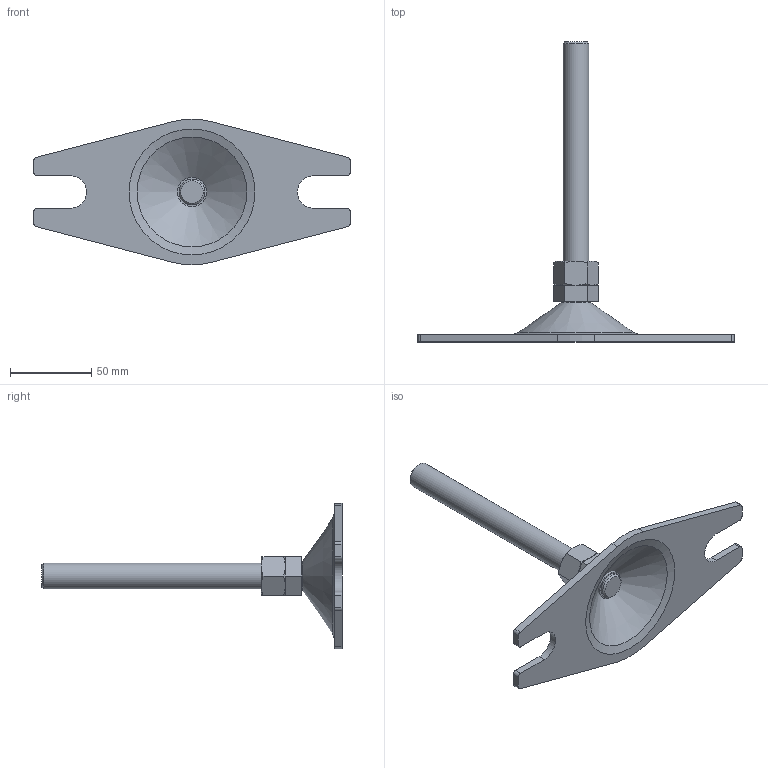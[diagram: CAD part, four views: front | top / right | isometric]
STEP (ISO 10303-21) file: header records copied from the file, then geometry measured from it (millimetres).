
FILE_DESCRIPTION(/* description */ (''),/* implementation_level */ '2;1');
FILE_NAME(/* name */ 'D:\硯聰\Inv材料庫-自訂\\X2\72796B8A914D4EF6\X0\\大樺腳座.stp',/* time_stamp */ '2020-11-19T10:09:00+08:00',/* author */ ('Owner'),/* organization */ (''),/* preprocessor_version */ 'ST-DEVELOPER v16.1',/* originating_system */ 'Autodesk Inventor 2016',/* authorisation */ '');
FILE_SCHEMA (('AUTOMOTIVE_DESIGN { 1 0 10303 214 3 1 1 }'));
Length unit declared in the file: millimetre
Products named in the file (4): 大樺腳座底盤; Apple腳座牙柱; M16-5; 大樺腳座
Assembly tree (3 placements, depth 2):
  大樺腳座
    大樺腳座底盤
    Apple腳座牙柱
    M16-5
Bounding box: 195 x 185 x 89.67 mm (x, y, z)
Volume: 98810.6 mm3; surface area: 40435.2 mm2
Topology: 3 solids, 3 shells, 73 faces, 173 edges, 110 vertices
Faces by surface type: plane 34, cone 20, cylinder 18, torus 1
Full cylindrical faces by diameter (mm): 13.835 x1, 16 x4, 18 x1
Entity records: 2053 total; most frequent: CARTESIAN_POINT 386, DIRECTION 346, ORIENTED_EDGE 306, EDGE_CURVE 153, AXIS2_PLACEMENT_3D 137, VERTEX_POINT 105, EDGE_LOOP 96, FACE_OUTER_BOUND 73
